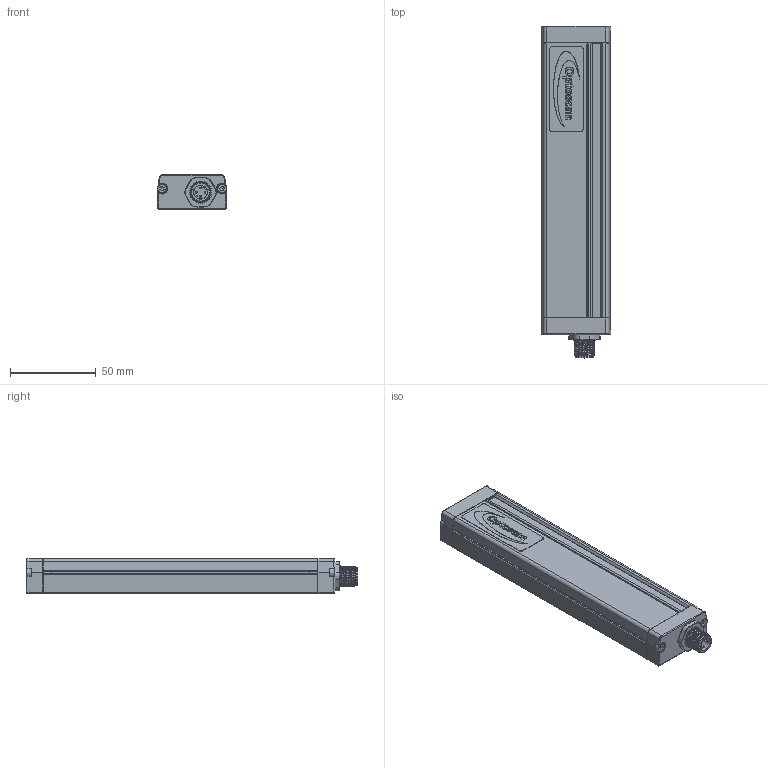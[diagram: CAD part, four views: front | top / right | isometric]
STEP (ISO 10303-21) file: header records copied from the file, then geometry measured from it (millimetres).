
FILE_DESCRIPTION(/* description */ (''),/* implementation_level */ '2;1');
FILE_NAME(/* name */ 'C:\Users\andre\SynologyDrive\Optoscan\Libreria Componenti\00 - Barriere\Barriera sorgente\Argo_160_RX.stp',/* time_stamp */ '2021-04-22T11:51:55+02:00',/* author */ ('andre'),/* organization */ (''),/* preprocessor_version */ 'ST-DEVELOPER v18',/* originating_system */ 'Autodesk Inventor 2020',/* authorisation */ '');
FILE_SCHEMA (('AUTOMOTIVE_DESIGN { 1 0 10303 214 3 1 1 }'));
Length unit declared in the file: millimetre
Products named in the file (1): Argo_160_RX
Bounding box: 40.5 x 193.3 x 20.75 mm (x, y, z)
Volume: 42658.2 mm3; surface area: 50819.1 mm2
Topology: 1 solids, 1 shells, 692 faces, 1898 edges, 1217 vertices
Faces by surface type: plane 319, cylinder 195, bspline 94, torus 70, cone 8, sphere 6
Full cylindrical faces by diameter (mm): 1 x4, 2.459 x4, 2.5 x4, 3 x4, 3.5 x4, 5.5 x4, 8 x1, 10.5 x2, 11.75 x9, 15.7 x1, 17.5 x1
Entity records: 28165 total; most frequent: CARTESIAN_POINT 10195, ORIENTED_EDGE 3778, DIRECTION 3387, EDGE_CURVE 1889, VERTEX_POINT 1217, AXIS2_PLACEMENT_3D 1183, LINE 1021, VECTOR 1021
